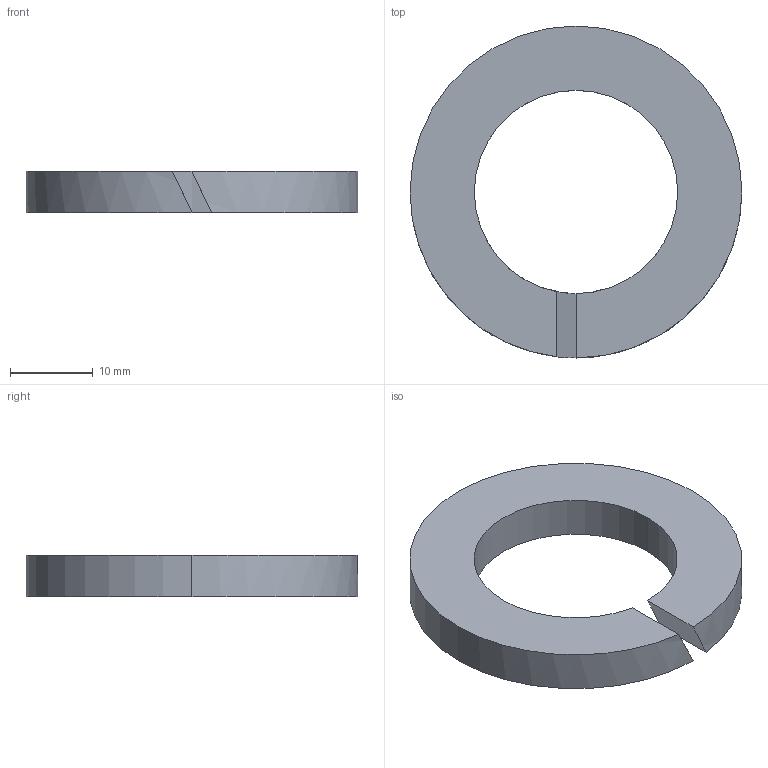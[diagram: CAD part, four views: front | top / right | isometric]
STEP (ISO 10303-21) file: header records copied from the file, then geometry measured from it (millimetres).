
FILE_DESCRIPTION(('STEP AP214'),'1');
FILE_NAME('uni_1751_24-5.stp','2017-09-12T14:13:44',('TraceParts'),('TraceParts S.A.'),'Spatial InterOp 3D',' ',' ');
FILE_SCHEMA(('automotive_design'));
Length unit declared in the file: millimetre
Products named in the file (1): uni_1751_24-5
Bounding box: 40 x 40 x 5 mm (x, y, z)
Volume: 3834.7 mm3; surface area: 2609.4 mm2
Topology: 1 solids, 1 shells, 10 faces, 24 edges, 16 vertices
Faces by surface type: cylinder 6, plane 4
Entity records: 319 total; most frequent: DIRECTION 62, CARTESIAN_POINT 51, ORIENTED_EDGE 48, AXIS2_PLACEMENT_3D 27, EDGE_CURVE 24, VERTEX_POINT 16, CIRCLE 12, ADVANCED_FACE 10
